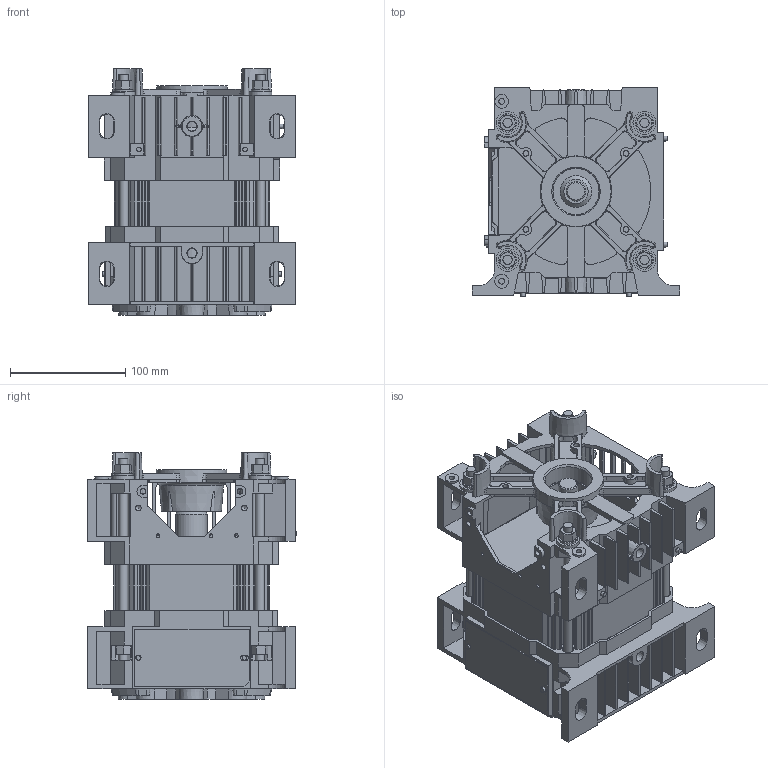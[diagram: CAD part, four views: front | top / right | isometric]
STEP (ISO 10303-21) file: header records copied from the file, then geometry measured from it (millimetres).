
FILE_DESCRIPTION(/* description */ ('Motore Tipo S31 Fl.82.55 F19-H50 NO Vol. NO Piedi'),/* implementation_level */ '2;1');
FILE_NAME(/* name */ 'Y:\ServerTecnico\Mockup Motori x Sito Elmo\Mockup Tipo S31 Size 3 FL82 F14-H50 NO Volano.stp',/* time_stamp */ '2016-10-06T09:29:12+02:00',/* author */ ('aparmini'),/* organization */ (''),/* preprocessor_version */ 'ST-DEVELOPER v16.5',/* originating_system */ 'Autodesk Inventor 2017',/* authorisation */ '');
FILE_SCHEMA (('AUTOMOTIVE_DESIGN { 1 0 10303 214 3 1 1 }'));
Length unit declared in the file: millimetre
Products named in the file (8): Mockup Tipo S31 Size 3 FL82 F14-H50 NO Volano; Mockup CP3XD040N; CA3SD082W; Mockup Statore Size 3 - F14-H50 NO Volano; TGS10; TI08ML175; UNI 5587 - M8; DIN 125-2 - B 8,4
Assembly tree (20 placements, depth 2):
  Mockup Tipo S31 Size 3 FL82 F14-H50 NO Volano
    Mockup CP3XD040N
    CA3SD082W
    Mockup Statore Size 3 - F14-H50 NO Volano
    TGS10
    UNI 5587 - M8  x8
    TI08ML175  x4
    DIN 125-2 - B 8,4  x4
Bounding box: 180 x 181 x 214 mm (x, y, z)
Volume: 1697198.6 mm3; surface area: 444225.7 mm2
Topology: 20 solids, 20 shells, 1684 faces, 4733 edges, 3088 vertices
Faces by surface type: plane 973, cone 375, cylinder 289, bspline 38, torus 9
Full cylindrical faces by diameter (mm): 3.2 x3, 4 x8, 4.917 x4, 5 x2, 6.647 x8, 8 x4, 8.4 x4, 12 x2, 14 x1, 16 x4, 17 x1, 20 x4, 21 x1, 27.5 x1, 29 x1, 40 x2, 40.1 x1, 42.5 x1, 46 x1, 82.55 x1
Entity records: 50779 total; most frequent: CARTESIAN_POINT 10419, ORIENTED_EDGE 8476, DIRECTION 8440, EDGE_CURVE 4238, AXIS2_PLACEMENT_3D 2900, VERTEX_POINT 2841, LINE 2640, VECTOR 2640
